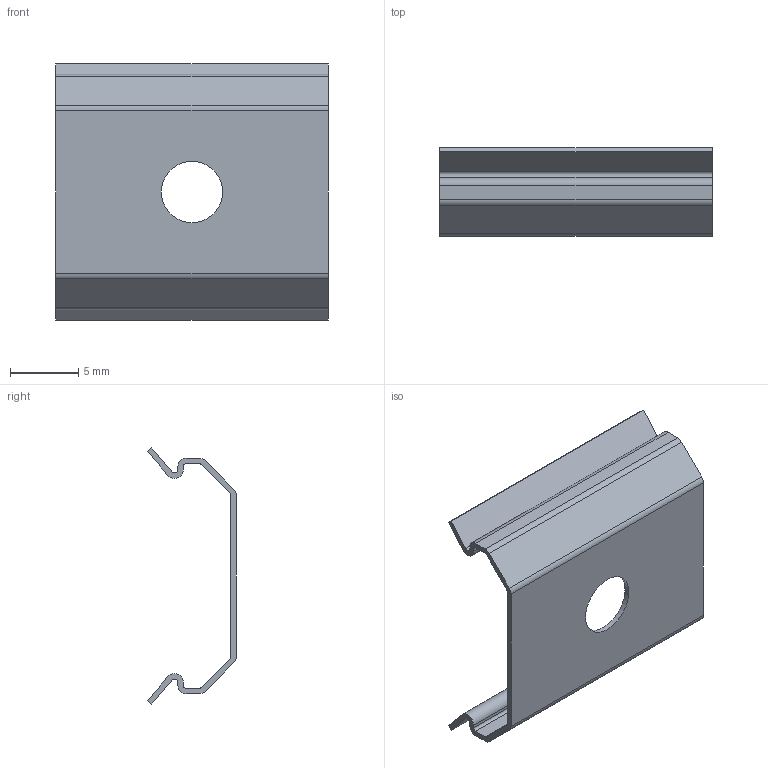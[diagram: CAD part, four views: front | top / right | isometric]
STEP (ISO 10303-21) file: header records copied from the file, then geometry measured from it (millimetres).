
FILE_DESCRIPTION (( 'STEP AP203' ), '1' );
FILE_NAME ('3535 Clip.STEP', '2026-04-20T12:27:51', ( '' ), ( '' ), 'SwSTEP 2.0', 'SolidWorks 2025', '' );
FILE_SCHEMA (( 'CONFIG_CONTROL_DESIGN' ));
Length unit declared in the file: millimetre
Products named in the file (1): 3535 Clip
Bounding box: 20 x 6.5 x 18.82 mm (x, y, z)
Volume: 230.1 mm3; surface area: 1195.6 mm2
Topology: 1 solids, 1 shells, 39 faces, 112 edges, 75 vertices
Faces by surface type: plane 22, cylinder 17
Full cylindrical faces by diameter (mm): 4.5 x1
Entity records: 1355 total; most frequent: DIRECTION 224, CARTESIAN_POINT 224, ORIENTED_EDGE 220, EDGE_CURVE 110, LINE 76, VECTOR 76, AXIS2_PLACEMENT_3D 74, VERTEX_POINT 74
